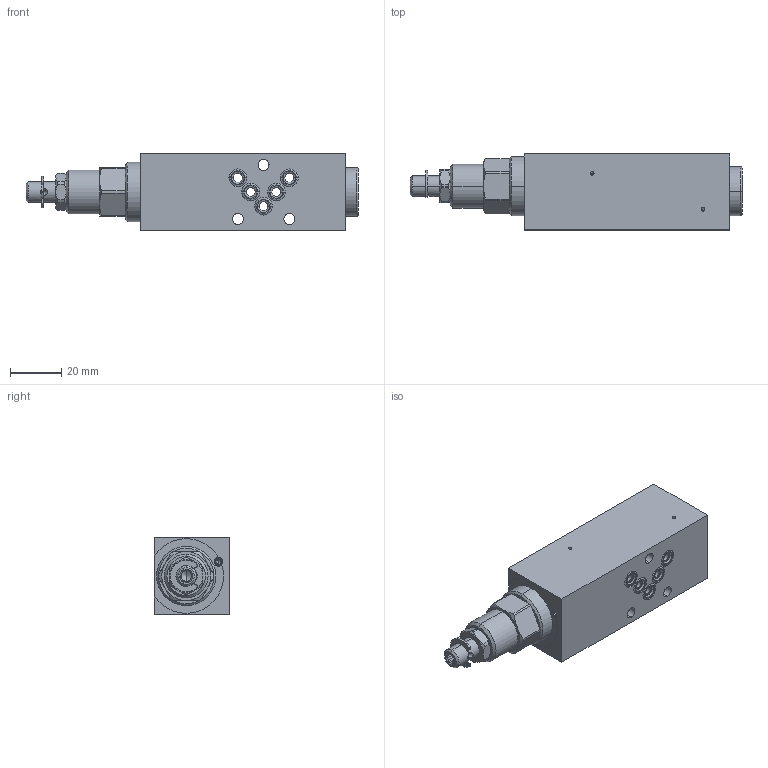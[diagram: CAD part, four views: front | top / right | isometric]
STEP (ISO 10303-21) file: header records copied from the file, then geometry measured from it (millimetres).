
FILE_DESCRIPTION (( 'STEP AP214' ), '1' );
FILE_NAME ('B.SSA03-P.STEP', '2017-03-23T06:46:36', ( '' ), ( '' ), 'SwSTEP 2.0', 'SolidWorks 2016', '' );
FILE_SCHEMA (( 'AUTOMOTIVE_DESIGN' ));
Length unit declared in the file: millimetre
Products named in the file (1): B.SSA03-P
Bounding box: 129 x 29.5 x 30 mm (x, y, z)
Volume: 78483.9 mm3; surface area: 18064.3 mm2
Topology: 8 solids, 11 shells, 335 faces, 844 edges, 536 vertices
Faces by surface type: plane 124, cylinder 120, cone 49, bspline 40, torus 2
Entity records: 14572 total; most frequent: CARTESIAN_POINT 2871, DIRECTION 1699, ORIENTED_EDGE 1660, EDGE_CURVE 830, AXIS2_PLACEMENT_3D 698, VERTEX_POINT 536, CIRCLE 402, EDGE_LOOP 384
